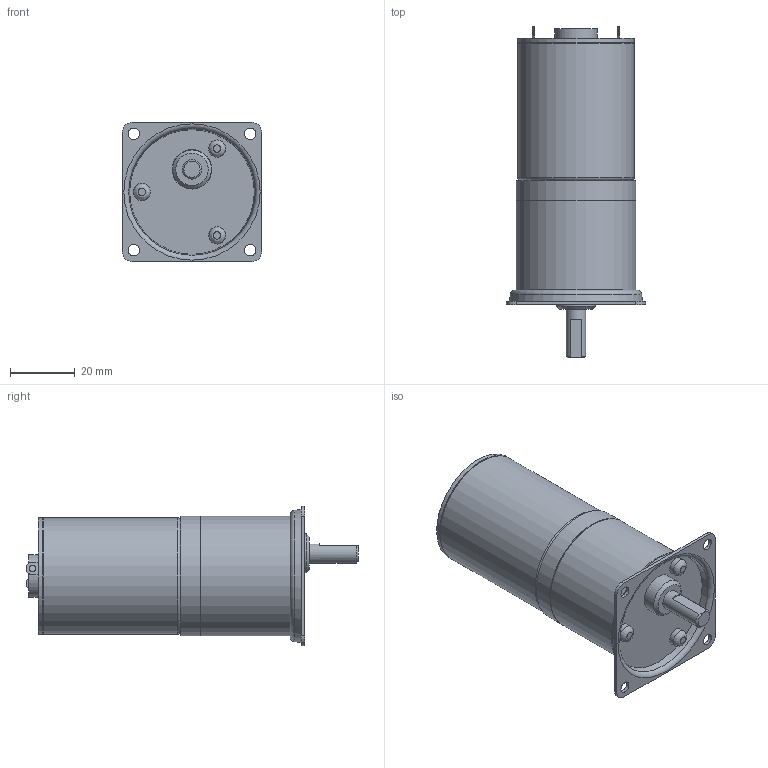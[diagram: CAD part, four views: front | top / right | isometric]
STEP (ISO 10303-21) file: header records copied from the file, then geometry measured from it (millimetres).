
FILE_DESCRIPTION((''),'2;1');
FILE_NAME('C:\Documents and Settings\SSEGAWA\デスクトップ\TP-3644D-PHM-6.STP','2013-07-25T18:00:03',('SSEGAWA'),(''),'Autodesk Inventor 2010','Autodesk Inventor 2010','');
FILE_SCHEMA(('CONFIG_CONTROL_DESIGN'));
Length unit declared in the file: millimetre
Products named in the file (1): tp_3644dh_phm-6_Shrinkwrap_1
Bounding box: 43 x 102.6 x 43 mm (x, y, z)
Volume: 84451.9 mm3; surface area: 15319 mm2
Topology: 1 solids, 9 shells, 97 faces, 203 edges, 136 vertices
Faces by surface type: plane 42, cylinder 25, bspline 23, cone 4, torus 3
Full cylindrical faces by diameter (mm): 3 x1, 3.5 x1, 5.3 x3, 6 x1, 12 x1, 12.2 x1, 13 x1, 35.6 x1, 36 x2, 36.6 x1, 37 x2
Entity records: 2693 total; most frequent: CARTESIAN_POINT 819, DIRECTION 371, ORIENTED_EDGE 268, EDGE_LOOP 165, AXIS2_PLACEMENT_3D 164, EDGE_CURVE 134, VERTEX_POINT 111, STYLED_ITEM 98
